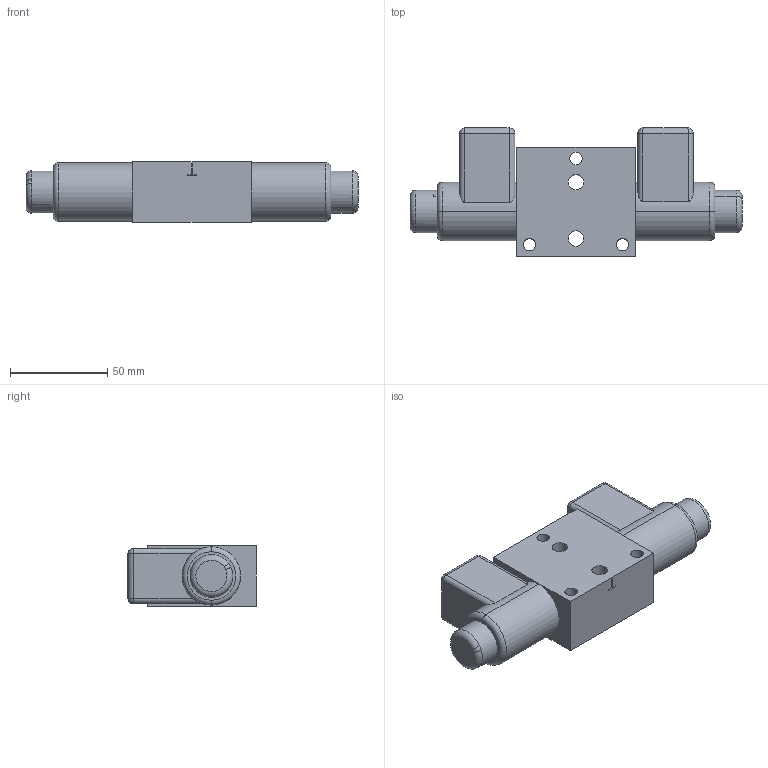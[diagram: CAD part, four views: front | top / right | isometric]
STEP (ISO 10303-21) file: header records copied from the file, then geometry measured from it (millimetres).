
FILE_DESCRIPTION((''),'2;1');
FILE_NAME('RPEK1_03G3','2011-03-14T',('tvatras'),(''),'PRO/ENGINEER BY PARAMETRIC TECHNOLOGY CORPORATION, 2010180','PRO/ENGINEER BY PARAMETRIC TECHNOLOGY CORPORATION, 2010180','');
FILE_SCHEMA(('CONFIG_CONTROL_DESIGN'));
Length unit declared in the file: millimetre
Products named in the file (1): RPEK1_03G3
Bounding box: 171 x 66 x 31 mm (x, y, z)
Volume: 212253.2 mm3; surface area: 39920.9 mm2
Topology: 1 solids, 9 shells, 224 faces, 564 edges, 366 vertices
Faces by surface type: plane 130, cylinder 66, cone 12, torus 8, bspline 8
Entity records: 7252 total; most frequent: CARTESIAN_POINT 1807, DIRECTION 1110, ORIENTED_EDGE 1092, EDGE_CURVE 554, VECTOR 376, LINE 376, AXIS2_PLACEMENT_3D 367, VERTEX_POINT 362
